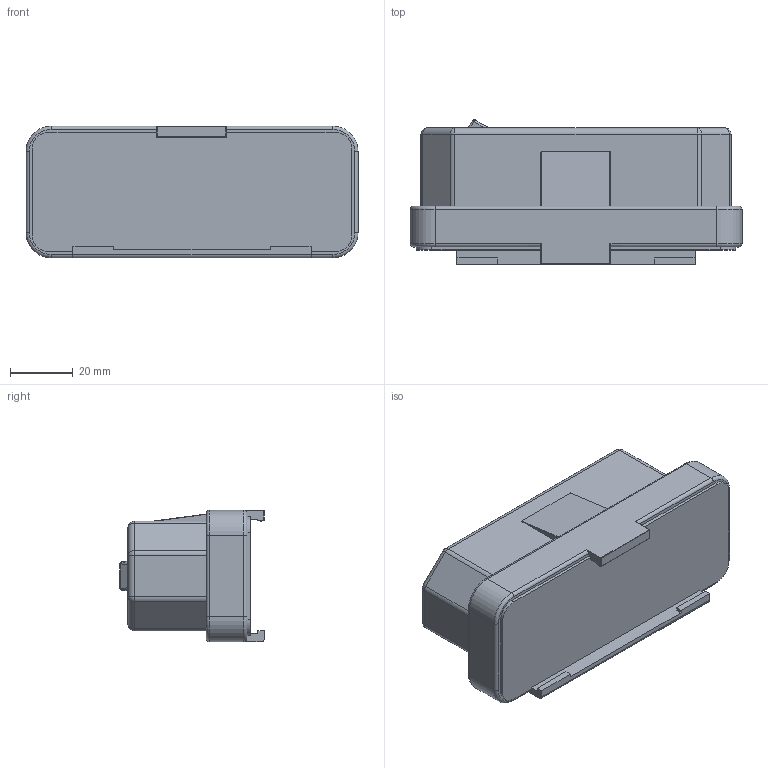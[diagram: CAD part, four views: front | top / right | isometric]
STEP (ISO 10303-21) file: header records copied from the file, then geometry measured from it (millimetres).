
FILE_DESCRIPTION(/* description */ (''),/* implementation_level */ '2;1');
FILE_NAME(/* name */ 'D:\_Vault\Workspace\Projektordner\Sensoren\PSENoptIII\Kundendaten\Neutralformate\H304903_A_Laserp_PSEN_opII.stp',/* time_stamp */ '2016-07-01T14:04:42+02:00',/* author */ ('dambuehl'),/* organization */ (''),/* preprocessor_version */ 'ST-DEVELOPER v16.5',/* originating_system */ 'Autodesk Inventor 2017',/* authorisation */ '');
FILE_SCHEMA (('AUTOMOTIVE_DESIGN { 1 0 10303 214 3 1 1 }'));
Length unit declared in the file: millimetre
Products named in the file (1): H304903
Bounding box: 106 x 46.1 x 42 mm (x, y, z)
Volume: 143647.5 mm3; surface area: 19800.8 mm2
Topology: 1 solids, 1 shells, 251 faces, 593 edges, 360 vertices
Faces by surface type: plane 98, cylinder 97, torus 19, bspline 19, sphere 18
Full cylindrical faces by diameter (mm): 3.4 x4
Entity records: 9839 total; most frequent: CARTESIAN_POINT 4032, DIRECTION 1239, ORIENTED_EDGE 1174, EDGE_CURVE 587, AXIS2_PLACEMENT_3D 457, VERTEX_POINT 359, LINE 325, VECTOR 325
